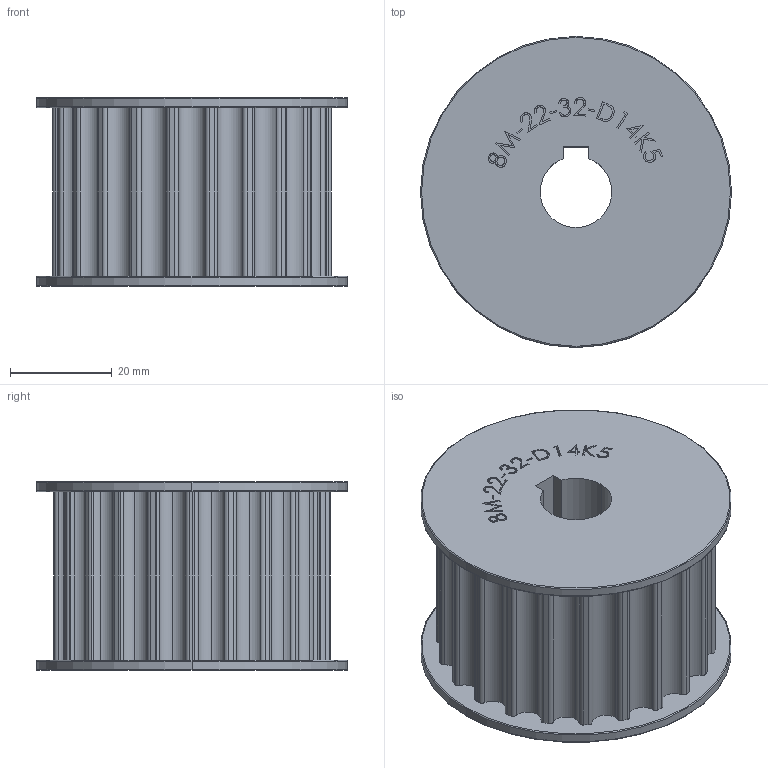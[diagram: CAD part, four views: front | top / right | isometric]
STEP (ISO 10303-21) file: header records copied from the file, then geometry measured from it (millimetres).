
FILE_DESCRIPTION (( 'STEP AP214' ), '1' );
FILE_NAME ('3.2039 HTD-8M-22-32-D14K5.STEP', '2026-02-09T11:32:40', ( '' ), ( '' ), 'SwSTEP 2.0', 'SolidWorks 2025', '' );
FILE_SCHEMA (( 'AUTOMOTIVE_DESIGN' ));
Length unit declared in the file: millimetre
Products named in the file (1): 3.2039 HTD-8M-22-32-D14K5
Bounding box: 61 x 61 x 37 mm (x, y, z)
Volume: 74428.8 mm3; surface area: 17434.3 mm2
Topology: 1 solids, 1 shells, 305 faces, 841 edges, 558 vertices
Faces by surface type: cylinder 120, plane 113, bspline 64, torus 8
Entity records: 16897 total; most frequent: CARTESIAN_POINT 5925, ORIENTED_EDGE 1682, DIRECTION 1445, EDGE_CURVE 841, VERTEX_POINT 558, AXIS2_PLACEMENT_3D 494, LINE 457, VECTOR 457
